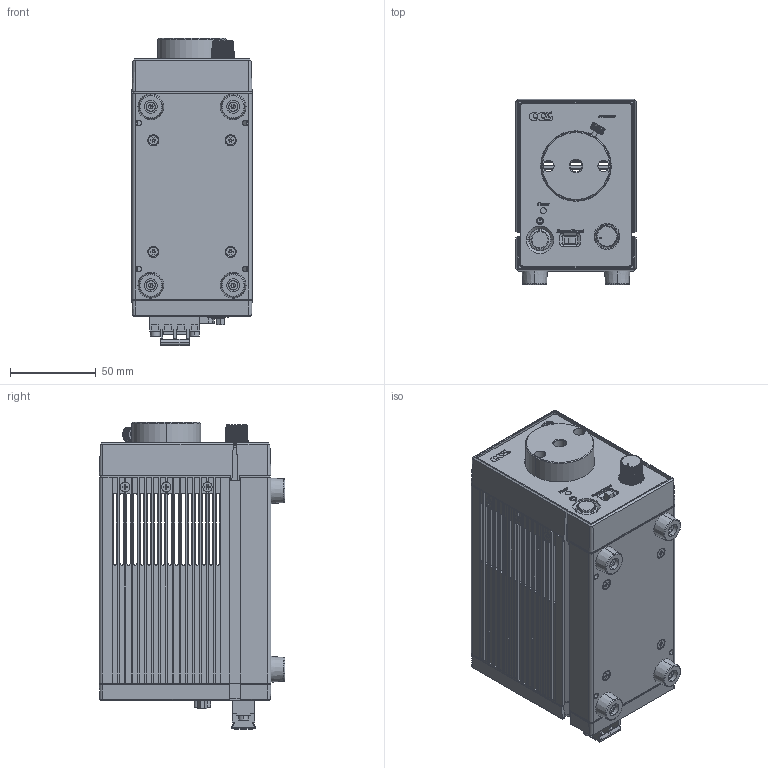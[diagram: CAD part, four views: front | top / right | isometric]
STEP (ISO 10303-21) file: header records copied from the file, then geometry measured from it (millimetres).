
FILE_DESCRIPTION (( 'STEP AP203' ), '1' );
FILE_NAME ('DJ4.STEP', '2021-12-27T08:24:53', ( 'CCS' ), ( 'シーシーエス株式会社' ), 'SwSTEP 2.0', 'SolidWorks 2017', '' );
FILE_SCHEMA (( 'CONFIG_CONTROL_DESIGN' ));
Products named in the file (1): DJ4
Bounding box: 70 x 108 x 178.88 mm (x, y, z)
Surface area: 136688.6 mm2 (no closed solid volume)
Topology: 0 solids, 95 shells, 1756 faces, 6935 edges, 5162 vertices
Faces by surface type: plane 1047, cylinder 320, cone 316, torus 30, sphere 30, bspline 13
Entity records: 79077 total; most frequent: CARTESIAN_POINT 24231, ORIENTED_EDGE 10733, DIRECTION 10466, EDGE_CURVE 6853, VERTEX_POINT 5132, VECTOR 3842, LINE 3842, AXIS2_PLACEMENT_3D 3312
